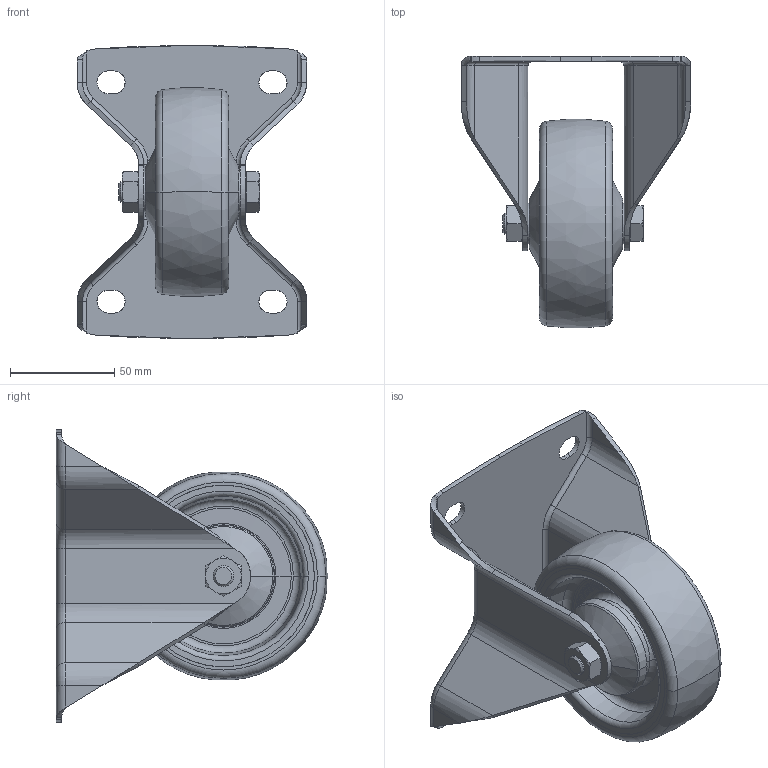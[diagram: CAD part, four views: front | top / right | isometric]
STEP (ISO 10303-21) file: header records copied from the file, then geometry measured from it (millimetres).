
FILE_DESCRIPTION (( 'STEP AP214' ), '1' );
FILE_NAME ('BK-POTH_100K-3_341883-214.step', '2021-12-07T09:39:46', ( '' ), ( '' ), 'SwSTEP 2.0', 'SolidWorks 2018', '' );
FILE_SCHEMA (( 'AUTOMOTIVE_DESIGN' ));
Length unit declared in the file: millimetre
Products named in the file (5): GH-BK-100x45-03_10x46_G16_3D; GH-BK_80-125_GH-BK-100x45-03_10x46; BK-POTH_100K-3_341883-214; POTH_3D_G16_POTH_100_10K_253609; POTH_100_10K_G16_3D
Assembly tree (4 placements, depth 3):
  BK-POTH_100K-3_341883-214
    GH-BK_80-125_GH-BK-100x45-03_10x46
      GH-BK-100x45-03_10x46_G16_3D
    POTH_3D_G16_POTH_100_10K_253609
      POTH_100_10K_G16_3D
Bounding box: 110 x 129.89 x 140 mm (x, y, z)
Volume: 243761.3 mm3; surface area: 112148.9 mm2
Topology: 2 solids, 6 shells, 1419 faces, 3752 edges, 2433 vertices
Faces by surface type: plane 654, bspline 444, cone 129, cylinder 112, torus 80
Entity records: 60396 total; most frequent: CARTESIAN_POINT 22063, ORIENTED_EDGE 7504, DIRECTION 4743, EDGE_CURVE 3752, VERTEX_POINT 2433, LINE 1697, VECTOR 1697, EDGE_LOOP 1527
